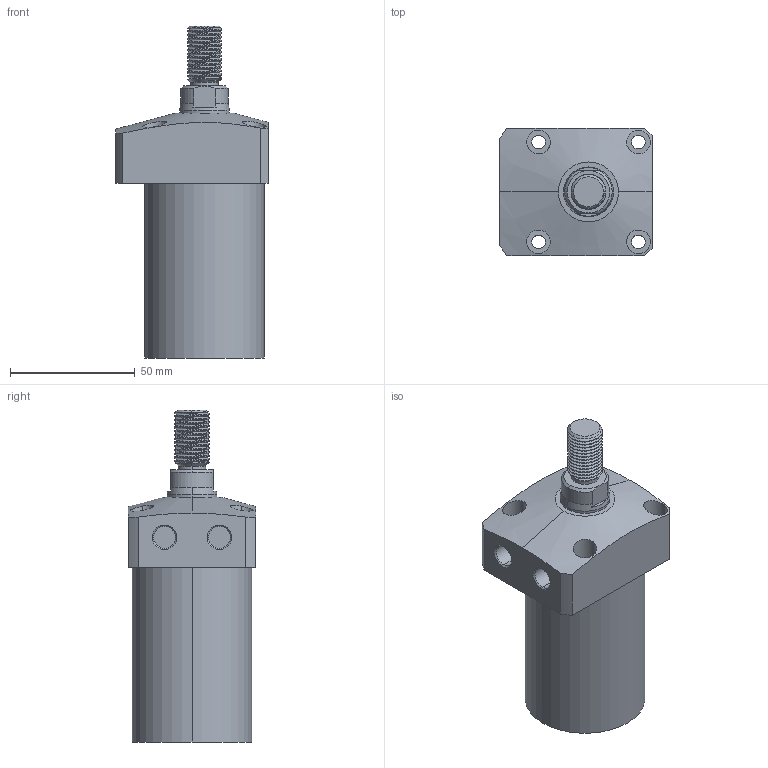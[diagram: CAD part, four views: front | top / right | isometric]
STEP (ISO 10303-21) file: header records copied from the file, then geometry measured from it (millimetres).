
FILE_DESCRIPTION (( 'STEP AP203' ), '1' );
FILE_NAME ('CLL-048CT-060.STEP', '2020-01-10T01:15:28', ( '' ), ( '' ), 'SwSTEP 2.0', 'SolidWorks 2015', '' );
FILE_SCHEMA (( 'CONFIG_CONTROL_DESIGN' ));
Length unit declared in the file: millimetre
Products named in the file (1): CLL-048CT-060
Bounding box: 61 x 51 x 133 mm (x, y, z)
Volume: 205714.9 mm3; surface area: 26513 mm2
Topology: 1 solids, 1 shells, 105 faces, 262 edges, 170 vertices
Faces by surface type: cylinder 63, plane 24, cone 16, bspline 2
Entity records: 5127 total; most frequent: CARTESIAN_POINT 2683, ORIENTED_EDGE 524, DIRECTION 464, EDGE_CURVE 262, AXIS2_PLACEMENT_3D 184, VERTEX_POINT 170, EDGE_LOOP 124, ADVANCED_FACE 105
